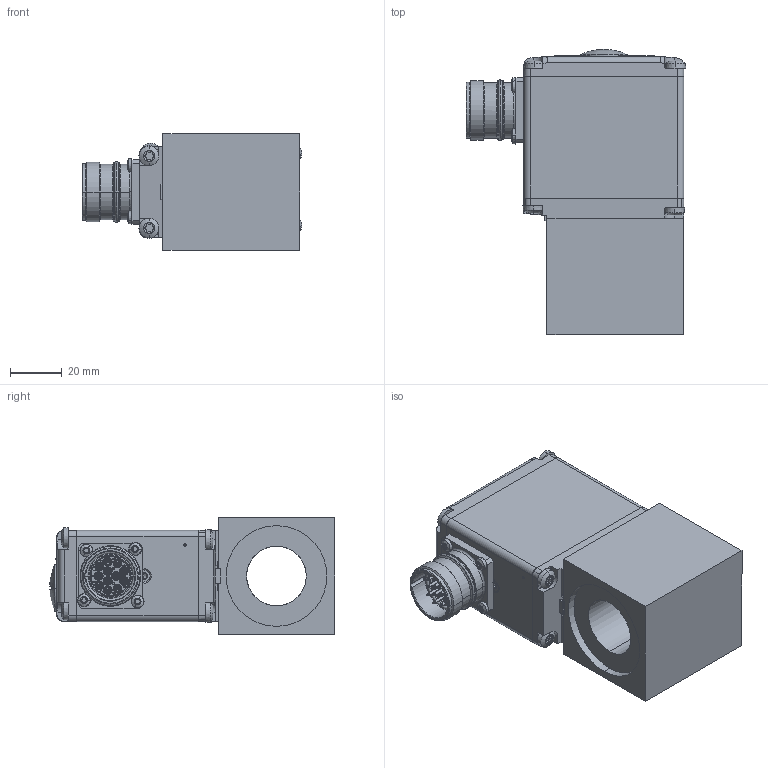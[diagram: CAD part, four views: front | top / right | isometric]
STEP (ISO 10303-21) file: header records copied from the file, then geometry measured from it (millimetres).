
FILE_DESCRIPTION (( 'STEP AP214' ), '1' );
FILE_NAME ('A1.STEP', '2017-03-24T09:50:19', ( '' ), ( '' ), 'SwSTEP 2.0', 'SolidWorks 2016', '' );
FILE_SCHEMA (( 'AUTOMOTIVE_DESIGN' ));
Length unit declared in the file: millimetre
Products named in the file (1): A1
Bounding box: 85.1 x 110.39 x 45 mm (x, y, z)
Volume: 145149.3 mm3; surface area: 69379.5 mm2
Topology: 54 solids, 54 shells, 4317 faces, 11727 edges, 7609 vertices
Faces by surface type: plane 2340, cylinder 1130, torus 325, cone 319, bspline 130, sphere 73
Entity records: 189869 total; most frequent: CARTESIAN_POINT 33246, ORIENTED_EDGE 23276, DIRECTION 22015, EDGE_CURVE 11638, VERTEX_POINT 7585, LINE 7485, VECTOR 7485, AXIS2_PLACEMENT_3D 7265
